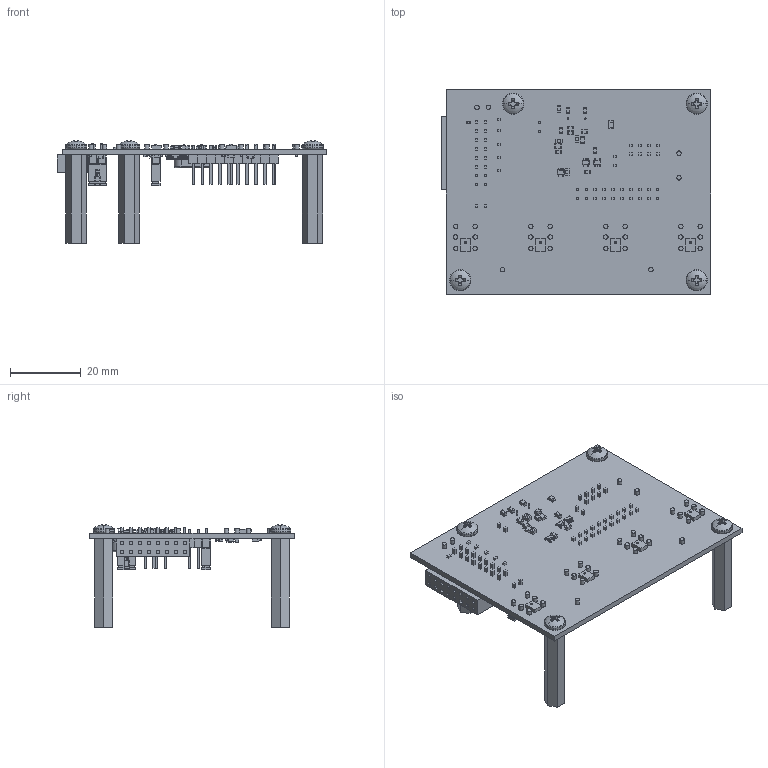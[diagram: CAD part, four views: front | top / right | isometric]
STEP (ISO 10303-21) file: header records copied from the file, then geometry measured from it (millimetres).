
FILE_DESCRIPTION(('Open CASCADE Model'),'2;1');
FILE_NAME('Open CASCADE Shape Model','2017-05-12T10:51:07',('Author'),( 'Open CASCADE'),'Open CASCADE STEP processor 6.8','Open CASCADE 6.8' ,'Unknown');
FILE_SCHEMA(('AUTOMOTIVE_DESIGN { 1 0 10303 214 1 1 1 1 }'));
Length unit declared in the file: millimetre
Products named in the file (196): PCB; Board; SH2; SNT-100-XX-X; c-37-x; snt-100-xx; SH1; MIC4; 1371230080; Extruded; 1371229944; MIC3; MIC2; MIC1; TP18; 1625751856; Cylinder; TP14; TP17; 1625751984; TP13; TP16; TP15; TP11; TP10; TP9; TP8; TP7; H3; Screw_M3_MPMS_003_0005_PH; H4; H7; Keystone_24438; H8; U2; DCK0005A; DCK0005A_2; DCK0005A_1; DCK0005A_3; DCK0005A_4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
Assembly tree (462 placements, depth 5):
  PCB
    Board
    SH2
      SNT-100-XX-X
        c-37-x
        snt-100-xx
    SH1
      SNT-100-XX-X
        c-37-x
        snt-100-xx
    MIC4
      1371230080
        Extruded
      1371229944
        Extruded
    MIC3
      1371230080
        Extruded
      1371229944
        Extruded
    MIC2
      1371230080
        Extruded
      1371229944
        Extruded
    MIC1
      1371230080
        Extruded
      1371229944
        Extruded
    TP18
      1625751856
        Cylinder
    TP14
      1625751856
        Cylinder
    TP17
      1625751984
        Cylinder
    TP13
      1625751984
        Cylinder
    TP16
      1625751984
        Cylinder
    TP15
      1625751984
        Cylinder
    TP11
      1625751984
        Cylinder
    TP10
      1625751856
        Cylinder
    TP9
      1625751984
        Cylinder
    TP8
      1625751856
        Cylinder
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Bounding box: 76.37 x 58 x 28.94 mm (x, y, z)
Volume: 10695.6 mm3; surface area: 17999 mm2
Topology: 336 solids, 336 shells, 3896 faces, 9318 edges, 6136 vertices
Faces by surface type: plane 3248, cylinder 567, cone 37, torus 18, sphere 14, bspline 12
Full cylindrical faces by diameter (mm): 0.43 x2, 1.27 x30, 3 x4
Entity records: 120580 total; most frequent: CARTESIAN_POINT 45509, DIRECTION 12627, LINE 8068, VECTOR 8068, ORIENTED_EDGE 6796, PCURVE 6796, DEFINITIONAL_REPRESENTATION 6796, EDGE_CURVE 3398
